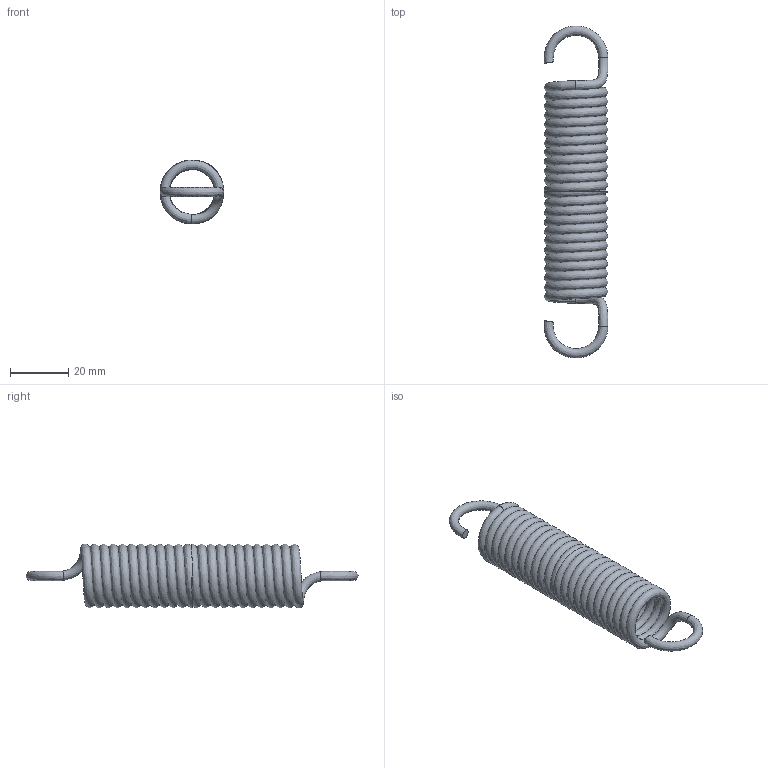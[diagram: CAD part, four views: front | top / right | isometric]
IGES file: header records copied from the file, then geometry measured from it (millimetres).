
Global section: file name: T12130; native system: Autodesk Inventor 2026; preprocessor: unknown; author: J. Iwanek; date: 20261005.100147; units: millimetre
Bounding box: 21.99 x 114.39 x 22 mm (x, y, z)
Volume: 11766.7 mm3; surface area: 14753 mm2
Topology: 1 solids, 1 shells, 10 faces, 36 edges, 24 vertices
Faces by surface type: bspline 10
